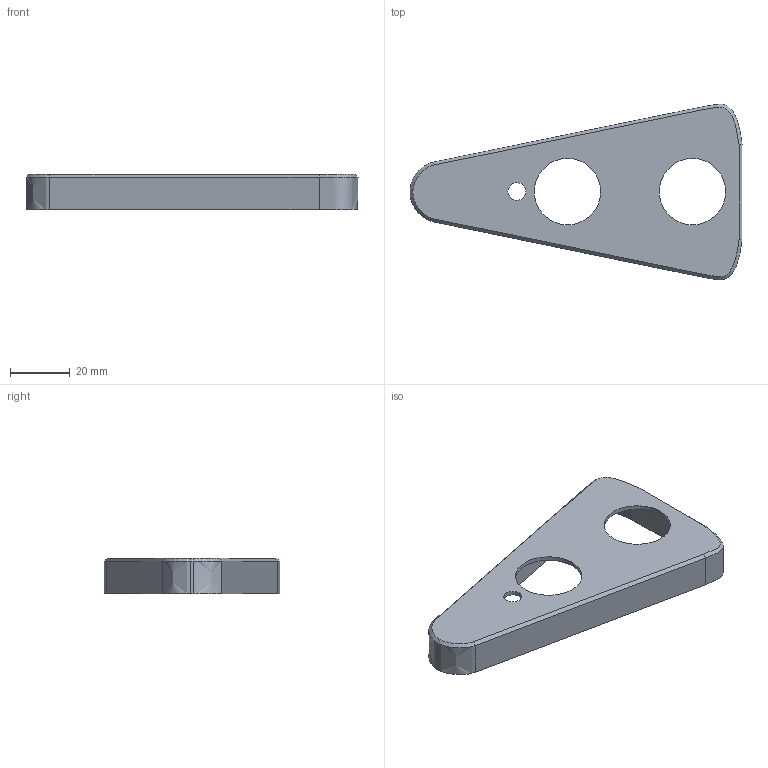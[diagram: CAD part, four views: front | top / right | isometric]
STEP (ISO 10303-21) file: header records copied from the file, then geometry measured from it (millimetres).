
FILE_DESCRIPTION(('HOOPS Exchange Step'),'2;1');
FILE_NAME('/var/folders/_s/95dhknh960bfclggtm3b9_pm0000gn/T/com.shapr3d.shapr/export/temp_export','2023-07-21T12:10:51+02:00',('bke'),('Shapr3D Limited'),'HOOPS Exchange 2022.2','Shapr3D','Authorized');
FILE_SCHEMA( ('AUTOMOTIVE_DESIGN { 1 0 10303 214 1 1 1 1 }') );
Length unit declared in the file: millimetre
Products named in the file (2): BASE2; root
Assembly tree (1 placements, depth 2):
  root
    BASE2
Bounding box: 111.55 x 59.06 x 11.99 mm (x, y, z)
Volume: 16498.1 mm3; surface area: 13381 mm2
Topology: 1 solids, 1 shells, 34 faces, 86 edges, 55 vertices
Faces by surface type: bspline 16, plane 13, cylinder 3, extrusion 2
Full cylindrical faces by diameter (mm): 6 x1, 22.336 x2
Entity records: 3740 total; most frequent: CARTESIAN_POINT 2983, ORIENTED_EDGE 172, DIRECTION 98, EDGE_CURVE 86, VERTEX_POINT 55, EDGE_LOOP 41, FACE_BOUND 41, VECTOR 40
